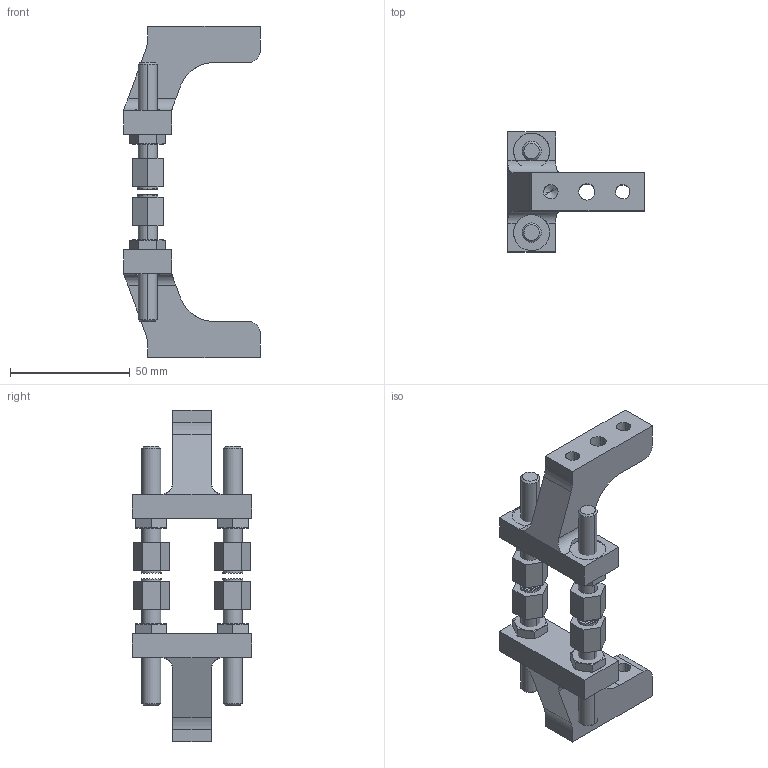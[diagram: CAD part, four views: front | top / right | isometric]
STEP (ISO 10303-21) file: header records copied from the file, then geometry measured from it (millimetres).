
FILE_DESCRIPTION(('CATIA V5 STEP Exchange'),'2;1');
FILE_NAME('E:\Euro Gripper 3D\EGT184_SPANNBACKE.stp','2012-09-17T02:25:53+00:00',('none'),('none'),'CATIA Version 5 Release 21 GA (IN-10)','CATIA V5 STEP AP203','none');
FILE_SCHEMA(('CONFIG_CONTROL_DESIGN'));
Length unit declared in the file: millimetre
Products named in the file (1): EGT184_SPANNBACKE
Bounding box: 57 x 50 x 138 mm (x, y, z)
Volume: 93811.1 mm3; surface area: 36309.4 mm2
Topology: 11 solids, 11 shells, 365 faces, 1039 edges, 701 vertices
Faces by surface type: plane 210, cylinder 81, cone 74
Entity records: 11096 total; most frequent: CARTESIAN_POINT 3318, ORIENTED_EDGE 2066, DIRECTION 990, EDGE_CURVE 926, VERTEX_POINT 630, VECTOR 418, LINE 418, AXIS2_PLACEMENT_3D 410
